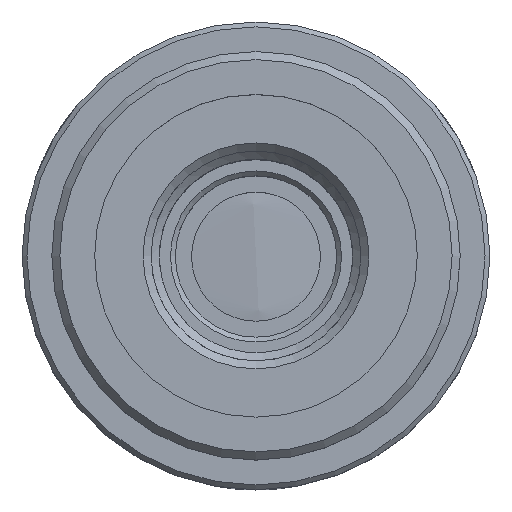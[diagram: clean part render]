
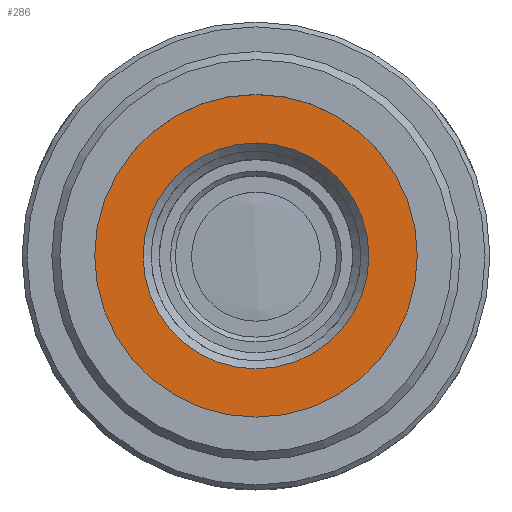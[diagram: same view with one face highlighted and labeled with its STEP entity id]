
A CAD part, top view. The second image highlights one B-rep face of the part: STEP entity #286.
In plain terms, the highlighted planar face has unit normal (0, 0, 1).
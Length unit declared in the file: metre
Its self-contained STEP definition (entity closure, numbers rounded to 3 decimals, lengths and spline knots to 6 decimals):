
#286=ADVANCED_FACE('NONE',(#651,#652),#653,.F.);
#651=FACE_BOUND('',#1213,.T.);
#652=FACE_OUTER_BOUND('',#1214,.T.);
#653=PLANE('',#1215);
#1213=EDGE_LOOP('',(#1869));
#1214=EDGE_LOOP('',(#1870));
#1215=AXIS2_PLACEMENT_3D('',#1871,#1872,#1873);
#1869=ORIENTED_EDGE('',*,*,#2486,.T.);
#1870=ORIENTED_EDGE('',*,*,#2484,.F.);
#1871=CARTESIAN_POINT('',(0.012802,0.010149,0.044497));
#1872=DIRECTION('',(0.,0.0,-1.0));
#1873=DIRECTION('',(-1.0,0.0,0.));
#2484=EDGE_CURVE('NONE',#2892,#2892,#2893,.T.);
#2486=EDGE_CURVE('NONE',#2895,#2895,#2896,.T.);
#2892=VERTEX_POINT('',#3693);
#2893=CIRCLE('',#3694,0.01);
#2895=VERTEX_POINT('',#3696);
#2896=CIRCLE('',#3697,0.007);
#3693=CARTESIAN_POINT('',(0.002802,0.000149,0.044497));
#3694=AXIS2_PLACEMENT_3D('',#4127,#4128,#4129);
#3696=CARTESIAN_POINT('',(0.005802,0.000149,0.044497));
#3697=AXIS2_PLACEMENT_3D('',#4130,#4131,#4132);
#4127=CARTESIAN_POINT('',(0.012802,0.000149,0.044497));
#4128=DIRECTION('',(0.,0.0,-1.0));
#4129=DIRECTION('',(-1.0,0.0,0.));
#4130=CARTESIAN_POINT('',(0.012802,0.000149,0.044497));
#4131=DIRECTION('',(0.,0.0,-1.0));
#4132=DIRECTION('',(-1.0,0.0,0.));
